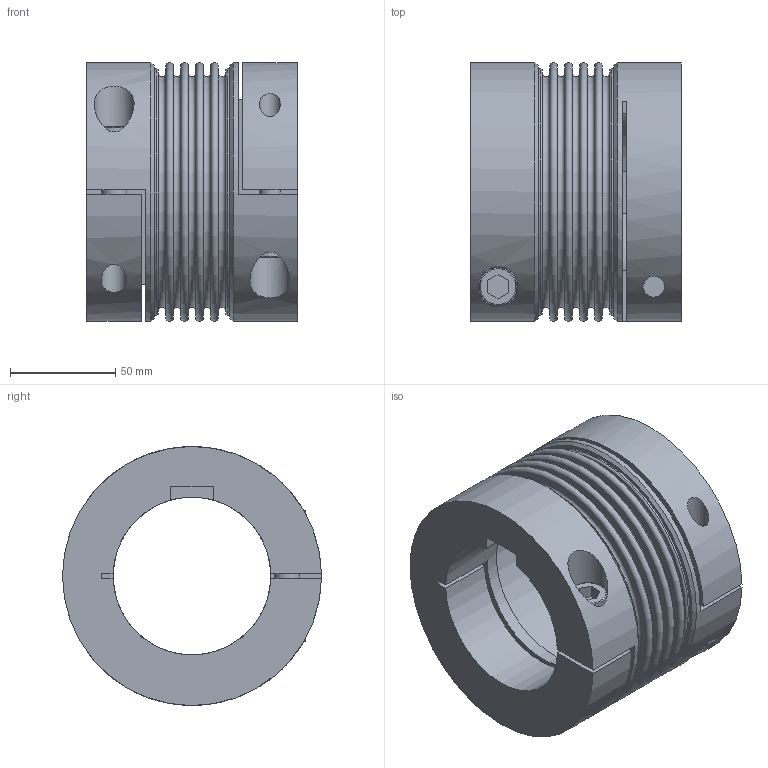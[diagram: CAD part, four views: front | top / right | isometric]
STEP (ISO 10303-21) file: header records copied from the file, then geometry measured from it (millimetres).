
FILE_DESCRIPTION(/* description */ ('STEP AP214'),/* implementation_level */ '2;1');
FILE_NAME(/* name */ 'C:\Diequa Files\DieQua Coupling\BCC\STP\BCC.500.#.#.stp',/* time_stamp */ '2018-11-20T10:57:09-06:00',/* author */ ('DiequaCAD'),/* organization */ (''),/* preprocessor_version */ 'ST-DEVELOPER v17.2',/* originating_system */ 'Autodesk Inventor 2019',/* authorisation */ ' ');
FILE_SCHEMA (('AUTOMOTIVE_DESIGN { 1 0 10303 214 3 1 1 }'));
Length unit declared in the file: millimetre
Products named in the file (1): BKC_500_75_PFN_75_PFN_64
Bounding box: 100 x 123 x 123 mm (x, y, z)
Volume: 571174.7 mm3; surface area: 123499.6 mm2
Topology: 1 solids, 1 shells, 88 faces, 214 edges, 148 vertices
Faces by surface type: plane 56, cylinder 17, torus 13, cone 2
Full cylindrical faces by diameter (mm): 10 x2, 12 x2, 18 x2, 19 x2, 96 x1, 117 x2, 123 x2
Entity records: 2843 total; most frequent: CARTESIAN_POINT 601, DIRECTION 483, ORIENTED_EDGE 428, EDGE_CURVE 214, AXIS2_PLACEMENT_3D 186, VERTEX_POINT 148, EDGE_LOOP 114, LINE 111
